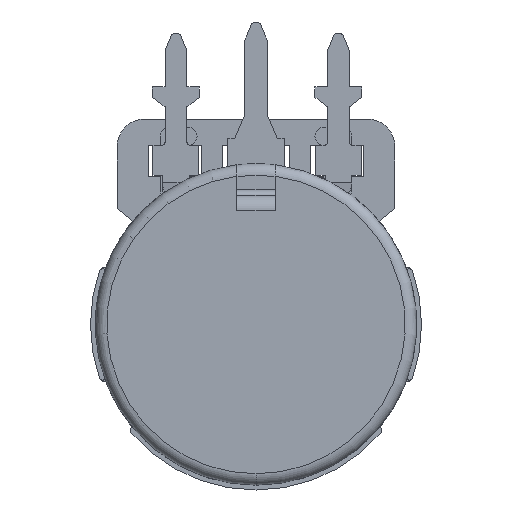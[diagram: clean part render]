
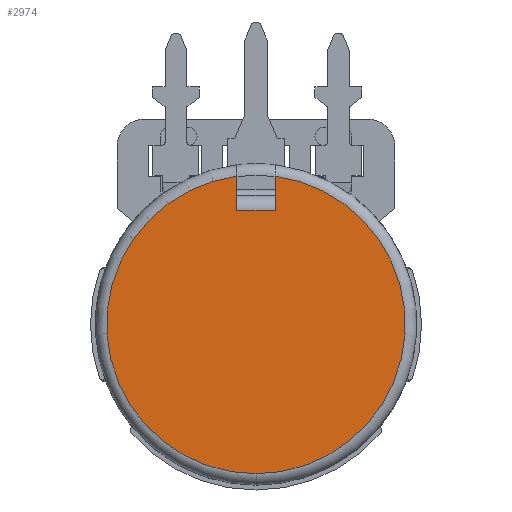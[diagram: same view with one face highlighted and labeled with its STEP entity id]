
A CAD part, front view. The second image highlights one B-rep face of the part: STEP entity #2974.
In plain terms, the highlighted planar face has unit normal (0, -1, 0).
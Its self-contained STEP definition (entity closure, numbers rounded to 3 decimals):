
#152 = AXIS2_PLACEMENT_3D ( 'NONE', #2247, #8687, #7107 ) ;
#738 = CARTESIAN_POINT ( 'NONE',  ( 0., 0., 0. ) ) ;
#1508 = VECTOR ( 'NONE', #12241, 1000. ) ;
#1672 = AXIS2_PLACEMENT_3D ( 'NONE', #738, #3927, #13315 ) ;
#1675 = VERTEX_POINT ( 'NONE', #16157 ) ;
#2247 = CARTESIAN_POINT ( 'NONE',  ( -5.207, 0., 0. ) ) ;
#2351 = CIRCLE ( 'NONE', #14148, 10.973 ) ;
#2974 = ADVANCED_FACE ( 'NONE', ( #3938 ), #16696, .T. ) ;
#3844 = ORIENTED_EDGE ( 'NONE', *, *, #3997, .T. ) ;
#3927 = DIRECTION ( 'NONE',  ( 0., -1., 0. ) ) ;
#3938 = FACE_OUTER_BOUND ( 'NONE', #19635, .T. ) ;
#3997 = EDGE_CURVE ( 'NONE', #4539, #12973, #2351, .T. ) ;
#4000 = VERTEX_POINT ( 'NONE', #9655 ) ;
#4539 = VERTEX_POINT ( 'NONE', #8509 ) ;
#6351 = ORIENTED_EDGE ( 'NONE', *, *, #12441, .T. ) ;
#6466 = DIRECTION ( 'NONE',  ( 0., 0., -1. ) ) ;
#7107 = DIRECTION ( 'NONE',  ( 0., 0., -1. ) ) ;
#8509 = CARTESIAN_POINT ( 'NONE',  ( -1.397, 0., 10.884 ) ) ;
#8687 = DIRECTION ( 'NONE',  ( 0., -1., 0. ) ) ;
#9266 = ORIENTED_EDGE ( 'NONE', *, *, #9407, .F. ) ;
#9407 = EDGE_CURVE ( 'NONE', #4539, #13040, #15740, .T. ) ;
#9465 = CIRCLE ( 'NONE', #1672, 10.973 ) ;
#9655 = CARTESIAN_POINT ( 'NONE',  ( 1.397, 0., 8.382 ) ) ;
#9747 = DIRECTION ( 'NONE',  ( 0., -1., 0. ) ) ;
#9846 = CARTESIAN_POINT ( 'NONE',  ( -1.397, 0., 8.382 ) ) ;
#10343 = LINE ( 'NONE', #16777, #1508 ) ;
#11847 = DIRECTION ( 'NONE',  ( 0., 0., 1. ) ) ;
#12241 = DIRECTION ( 'NONE',  ( -1., 0., 0. ) ) ;
#12441 = EDGE_CURVE ( 'NONE', #4000, #13040, #10343, .T. ) ;
#12638 = VECTOR ( 'NONE', #6466, 1000. ) ;
#12973 = VERTEX_POINT ( 'NONE', #16587 ) ;
#13040 = VERTEX_POINT ( 'NONE', #9846 ) ;
#13212 = LINE ( 'NONE', #19658, #15104 ) ;
#13315 = DIRECTION ( 'NONE',  ( 0., 0., -1. ) ) ;
#14148 = AXIS2_PLACEMENT_3D ( 'NONE', #15968, #9747, #20736 ) ;
#15104 = VECTOR ( 'NONE', #11847, 1000. ) ;
#15180 = ORIENTED_EDGE ( 'NONE', *, *, #20127, .T. ) ;
#15740 = LINE ( 'NONE', #19428, #12638 ) ;
#15968 = CARTESIAN_POINT ( 'NONE',  ( 0., 0., 0. ) ) ;
#16157 = CARTESIAN_POINT ( 'NONE',  ( 1.397, 0., 10.884 ) ) ;
#16587 = CARTESIAN_POINT ( 'NONE',  ( 0., 0., -10.973 ) ) ;
#16696 = PLANE ( 'NONE',  #152 ) ;
#16777 = CARTESIAN_POINT ( 'NONE',  ( -1.397, 0., 8.382 ) ) ;
#16817 = EDGE_CURVE ( 'NONE', #4000, #1675, #13212, .T. ) ;
#19428 = CARTESIAN_POINT ( 'NONE',  ( -1.397, 0., 12.522 ) ) ;
#19635 = EDGE_LOOP ( 'NONE', ( #20615, #6351, #9266, #3844, #15180 ) ) ;
#19658 = CARTESIAN_POINT ( 'NONE',  ( 1.397, 0., 12.522 ) ) ;
#20127 = EDGE_CURVE ( 'NONE', #12973, #1675, #9465, .T. ) ;
#20615 = ORIENTED_EDGE ( 'NONE', *, *, #16817, .F. ) ;
#20736 = DIRECTION ( 'NONE',  ( 0., 0., -1. ) ) ;
